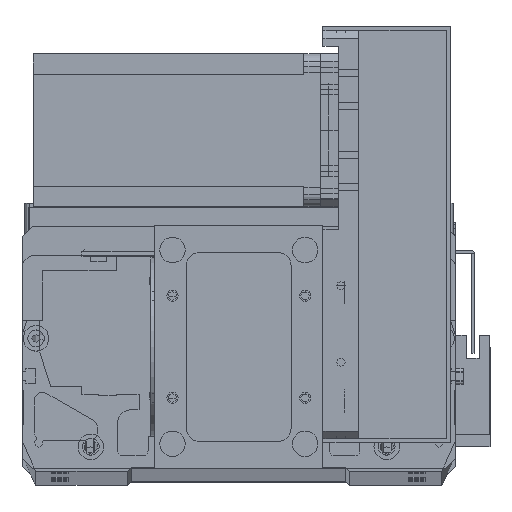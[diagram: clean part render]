
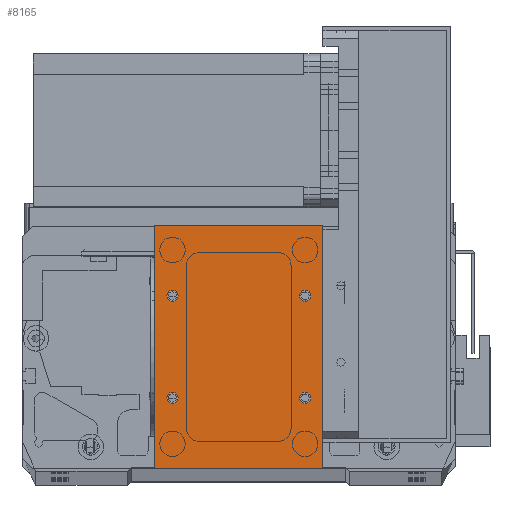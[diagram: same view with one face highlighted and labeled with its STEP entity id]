
A CAD part, top view. The second image highlights one B-rep face of the part: STEP entity #8165.
In plain terms, the highlighted planar face has unit normal (0, 0, 1).
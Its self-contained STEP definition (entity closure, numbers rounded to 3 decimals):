
#352 = CIRCLE ( 'NONE', #12124, 2.25 ) ;
#565 = AXIS2_PLACEMENT_3D ( 'NONE', #6577, #25307, #9296 ) ;
#729 = EDGE_CURVE ( 'NONE', #13220, #12184, #11738, .T. ) ;
#852 = CARTESIAN_POINT ( 'NONE',  ( 7., 67.5, 2. ) ) ;
#864 = AXIS2_PLACEMENT_3D ( 'NONE', #31028, #20301, #17732 ) ;
#869 = CIRCLE ( 'NONE', #22660, 2.25 ) ;
#1132 = ORIENTED_EDGE ( 'NONE', *, *, #23128, .F. ) ;
#1313 = FACE_BOUND ( 'NONE', #7835, .T. ) ;
#2834 = DIRECTION ( 'NONE',  ( -1., 0., 0. ) ) ;
#3552 = DIRECTION ( 'NONE',  ( 1., 0., 0. ) ) ;
#3617 = EDGE_LOOP ( 'NONE', ( #25335, #19516 ) ) ;
#3736 = LINE ( 'NONE', #26830, #23434 ) ;
#4171 = ORIENTED_EDGE ( 'NONE', *, *, #27688, .F. ) ;
#4993 = VECTOR ( 'NONE', #14392, 1000. ) ;
#5609 = AXIS2_PLACEMENT_3D ( 'NONE', #23562, #7504, #26232 ) ;
#6577 = CARTESIAN_POINT ( 'NONE',  ( 7., 67.5, 2. ) ) ;
#6777 = EDGE_LOOP ( 'NONE', ( #18287, #26342 ) ) ;
#7504 = DIRECTION ( 'NONE',  ( 0., 0., 1. ) ) ;
#7607 = FACE_BOUND ( 'NONE', #3617, .T. ) ;
#7793 = VERTEX_POINT ( 'NONE', #31971 ) ;
#7835 = EDGE_LOOP ( 'NONE', ( #8071, #30815 ) ) ;
#8071 = ORIENTED_EDGE ( 'NONE', *, *, #29476, .F. ) ;
#8095 = CARTESIAN_POINT ( 'NONE',  ( 59., 67.5, 2. ) ) ;
#8165 = ADVANCED_FACE ( 'NONE', ( #1313, #7607, #28984, #24369, #21890 ), #28325, .F. ) ;
#8827 = CARTESIAN_POINT ( 'NONE',  ( 56.75, 67.5, 2. ) ) ;
#8985 = EDGE_LOOP ( 'NONE', ( #24010, #33215, #23079, #23160 ) ) ;
#9296 = DIRECTION ( 'NONE',  ( 1., 0., 0. ) ) ;
#9427 = CARTESIAN_POINT ( 'NONE',  ( 0., 95., 2. ) ) ;
#9678 = VERTEX_POINT ( 'NONE', #34771 ) ;
#10277 = CARTESIAN_POINT ( 'NONE',  ( 66., 0., 2. ) ) ;
#10515 = EDGE_CURVE ( 'NONE', #12184, #7793, #18441, .T. ) ;
#10583 = CARTESIAN_POINT ( 'NONE',  ( 0., 95., 2. ) ) ;
#10814 = DIRECTION ( 'NONE',  ( 1., 0., 0. ) ) ;
#10824 = DIRECTION ( 'NONE',  ( 0., -1., 0. ) ) ;
#10910 = CARTESIAN_POINT ( 'NONE',  ( 59., 27.5, 2. ) ) ;
#11201 = VERTEX_POINT ( 'NONE', #8827 ) ;
#11277 = EDGE_CURVE ( 'NONE', #18832, #9678, #17531, .T. ) ;
#11340 = CARTESIAN_POINT ( 'NONE',  ( 7., 27.5, 2. ) ) ;
#11712 = EDGE_CURVE ( 'NONE', #17795, #21928, #17498, .T. ) ;
#11738 = LINE ( 'NONE', #24816, #24277 ) ;
#12124 = AXIS2_PLACEMENT_3D ( 'NONE', #8095, #26823, #10814 ) ;
#12184 = VERTEX_POINT ( 'NONE', #10277 ) ;
#12326 = VERTEX_POINT ( 'NONE', #29719 ) ;
#12367 = CARTESIAN_POINT ( 'NONE',  ( 4.75, 67.5, 2. ) ) ;
#13220 = VERTEX_POINT ( 'NONE', #30758 ) ;
#13369 = CARTESIAN_POINT ( 'NONE',  ( 59., 27.5, 2. ) ) ;
#13590 = DIRECTION ( 'NONE',  ( 1., 0., 0. ) ) ;
#14043 = CARTESIAN_POINT ( 'NONE',  ( 61.25, 27.5, 2. ) ) ;
#14044 = DIRECTION ( 'NONE',  ( 1., 0., 0. ) ) ;
#14124 = VERTEX_POINT ( 'NONE', #17088 ) ;
#14226 = VERTEX_POINT ( 'NONE', #9427 ) ;
#14290 = EDGE_LOOP ( 'NONE', ( #4171, #1132 ) ) ;
#14392 = DIRECTION ( 'NONE',  ( 0., 1., 0. ) ) ;
#14757 = AXIS2_PLACEMENT_3D ( 'NONE', #11340, #30075, #14044 ) ;
#15449 = CARTESIAN_POINT ( 'NONE',  ( 59., 67.5, 2. ) ) ;
#15593 = CARTESIAN_POINT ( 'NONE',  ( 56.75, 27.5, 2. ) ) ;
#16068 = DIRECTION ( 'NONE',  ( 1., 0., 0. ) ) ;
#16453 = CARTESIAN_POINT ( 'NONE',  ( 9.25, 27.5, 2. ) ) ;
#16907 = DIRECTION ( 'NONE',  ( 1., 0., 0. ) ) ;
#17088 = CARTESIAN_POINT ( 'NONE',  ( 61.25, 67.5, 2. ) ) ;
#17286 = EDGE_CURVE ( 'NONE', #14226, #13220, #3736, .T. ) ;
#17498 = CIRCLE ( 'NONE', #34691, 2.25 ) ;
#17531 = CIRCLE ( 'NONE', #565, 2.25 ) ;
#17732 = DIRECTION ( 'NONE',  ( -1., 0., 0. ) ) ;
#17795 = VERTEX_POINT ( 'NONE', #15593 ) ;
#18165 = DIRECTION ( 'NONE',  ( 1., 0., 0. ) ) ;
#18287 = ORIENTED_EDGE ( 'NONE', *, *, #25176, .F. ) ;
#18441 = LINE ( 'NONE', #30405, #4993 ) ;
#18832 = VERTEX_POINT ( 'NONE', #12367 ) ;
#19516 = ORIENTED_EDGE ( 'NONE', *, *, #30724, .F. ) ;
#19657 = DIRECTION ( 'NONE',  ( 0., 0., 1. ) ) ;
#20301 = DIRECTION ( 'NONE',  ( 0., 0., -1. ) ) ;
#21890 = FACE_OUTER_BOUND ( 'NONE', #8985, .T. ) ;
#21928 = VERTEX_POINT ( 'NONE', #14043 ) ;
#22540 = LINE ( 'NONE', #10583, #28788 ) ;
#22660 = AXIS2_PLACEMENT_3D ( 'NONE', #852, #19657, #3552 ) ;
#23079 = ORIENTED_EDGE ( 'NONE', *, *, #10515, .T. ) ;
#23128 = EDGE_CURVE ( 'NONE', #12326, #24626, #32251, .T. ) ;
#23160 = ORIENTED_EDGE ( 'NONE', *, *, #32327, .T. ) ;
#23434 = VECTOR ( 'NONE', #10824, 1000. ) ;
#23562 = CARTESIAN_POINT ( 'NONE',  ( 7., 27.5, 2. ) ) ;
#24010 = ORIENTED_EDGE ( 'NONE', *, *, #17286, .T. ) ;
#24277 = VECTOR ( 'NONE', #16907, 1000. ) ;
#24369 = FACE_BOUND ( 'NONE', #14290, .T. ) ;
#24626 = VERTEX_POINT ( 'NONE', #16453 ) ;
#24747 = AXIS2_PLACEMENT_3D ( 'NONE', #15449, #34159, #18165 ) ;
#24816 = CARTESIAN_POINT ( 'NONE',  ( 0., 0., 2. ) ) ;
#24978 = AXIS2_PLACEMENT_3D ( 'NONE', #13369, #32082, #16068 ) ;
#25176 = EDGE_CURVE ( 'NONE', #21928, #17795, #30874, .T. ) ;
#25307 = DIRECTION ( 'NONE',  ( 0., 0., 1. ) ) ;
#25335 = ORIENTED_EDGE ( 'NONE', *, *, #31632, .F. ) ;
#26232 = DIRECTION ( 'NONE',  ( 1., 0., 0. ) ) ;
#26342 = ORIENTED_EDGE ( 'NONE', *, *, #11712, .F. ) ;
#26823 = DIRECTION ( 'NONE',  ( 0., 0., 1. ) ) ;
#26830 = CARTESIAN_POINT ( 'NONE',  ( 0., 0., 2. ) ) ;
#27570 = CIRCLE ( 'NONE', #24747, 2.25 ) ;
#27688 = EDGE_CURVE ( 'NONE', #24626, #12326, #34107, .T. ) ;
#28325 = PLANE ( 'NONE',  #864 ) ;
#28788 = VECTOR ( 'NONE', #2834, 1000. ) ;
#28984 = FACE_BOUND ( 'NONE', #6777, .T. ) ;
#29476 = EDGE_CURVE ( 'NONE', #9678, #18832, #869, .T. ) ;
#29634 = DIRECTION ( 'NONE',  ( 0., 0., 1. ) ) ;
#29719 = CARTESIAN_POINT ( 'NONE',  ( 4.75, 27.5, 2. ) ) ;
#30075 = DIRECTION ( 'NONE',  ( 0., 0., 1. ) ) ;
#30405 = CARTESIAN_POINT ( 'NONE',  ( 66., 0., 2. ) ) ;
#30724 = EDGE_CURVE ( 'NONE', #11201, #14124, #352, .T. ) ;
#30758 = CARTESIAN_POINT ( 'NONE',  ( 0., 0., 2. ) ) ;
#30815 = ORIENTED_EDGE ( 'NONE', *, *, #11277, .F. ) ;
#30874 = CIRCLE ( 'NONE', #24978, 2.25 ) ;
#31028 = CARTESIAN_POINT ( 'NONE',  ( 0., 0., 2. ) ) ;
#31632 = EDGE_CURVE ( 'NONE', #14124, #11201, #27570, .T. ) ;
#31971 = CARTESIAN_POINT ( 'NONE',  ( 66., 95., 2. ) ) ;
#32082 = DIRECTION ( 'NONE',  ( 0., 0., 1. ) ) ;
#32251 = CIRCLE ( 'NONE', #5609, 2.25 ) ;
#32327 = EDGE_CURVE ( 'NONE', #7793, #14226, #22540, .T. ) ;
#33215 = ORIENTED_EDGE ( 'NONE', *, *, #729, .T. ) ;
#34107 = CIRCLE ( 'NONE', #14757, 2.25 ) ;
#34159 = DIRECTION ( 'NONE',  ( 0., 0., 1. ) ) ;
#34691 = AXIS2_PLACEMENT_3D ( 'NONE', #10910, #29634, #13590 ) ;
#34771 = CARTESIAN_POINT ( 'NONE',  ( 9.25, 67.5, 2. ) ) ;
